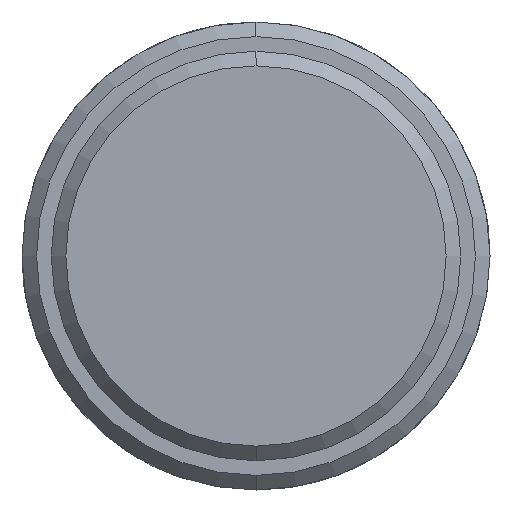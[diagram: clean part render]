
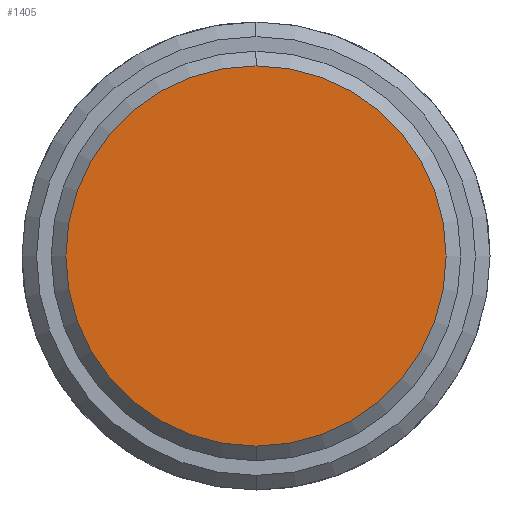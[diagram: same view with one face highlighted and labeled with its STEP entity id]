
A CAD part, left-side view. The second image highlights one B-rep face of the part: STEP entity #1405.
In plain terms, the highlighted planar face has unit normal (-1, 0, 0).
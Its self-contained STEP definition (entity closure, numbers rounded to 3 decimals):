
#1337=CARTESIAN_POINT('Vertex',(-16.,0.,-13.)) ;
#1340=CARTESIAN_POINT('Axis2P3D Location',(-16.,0.,0.)) ;
#1344=CARTESIAN_POINT('Vertex',(-16.,13.,0.)) ;
#1347=CARTESIAN_POINT('Axis2P3D Location',(-16.,0.,0.)) ;
#1351=CARTESIAN_POINT('Vertex',(-16.,0.,13.)) ;
#1373=CARTESIAN_POINT('Axis2P3D Location',(-16.,0.,0.)) ;
#1377=CARTESIAN_POINT('Vertex',(-16.,-13.,0.)) ;
#1380=CARTESIAN_POINT('Axis2P3D Location',(-16.,0.,0.)) ;
#1394=CARTESIAN_POINT('Axis2P3D Location',(-16.,0.,0.)) ;
#1341=DIRECTION('Axis2P3D Direction',(1.,0.,-0.)) ;
#1348=DIRECTION('Axis2P3D Direction',(1.,0.,-0.)) ;
#1374=DIRECTION('Axis2P3D Direction',(1.,0.,-0.)) ;
#1381=DIRECTION('Axis2P3D Direction',(1.,0.,-0.)) ;
#1395=DIRECTION('Axis2P3D Direction',(1.,0.,-0.)) ;
#1396=DIRECTION('Axis2P3D XDirection',(-0.,0.,-1.)) ;
#1342=AXIS2_PLACEMENT_3D('Circle Axis2P3D',#1340,#1341,$) ;
#1349=AXIS2_PLACEMENT_3D('Circle Axis2P3D',#1347,#1348,$) ;
#1375=AXIS2_PLACEMENT_3D('Circle Axis2P3D',#1373,#1374,$) ;
#1382=AXIS2_PLACEMENT_3D('Circle Axis2P3D',#1380,#1381,$) ;
#1397=AXIS2_PLACEMENT_3D('Plane Axis2P3D',#1394,#1395,#1396) ;
#1400=ORIENTED_EDGE('',*,*,#1346,.F.) ;
#1401=ORIENTED_EDGE('',*,*,#1384,.F.) ;
#1402=ORIENTED_EDGE('',*,*,#1379,.F.) ;
#1403=ORIENTED_EDGE('',*,*,#1353,.F.) ;
#1405=ADVANCED_FACE('357-20X66X100',(#1404),#1398,.F.) ;
#1343=CIRCLE('generated circle',#1342,13.) ;
#1350=CIRCLE('generated circle',#1349,13.) ;
#1376=CIRCLE('generated circle',#1375,13.) ;
#1383=CIRCLE('generated circle',#1382,13.) ;
#1346=EDGE_CURVE('',#1338,#1345,#1343,.T.) ;
#1353=EDGE_CURVE('',#1345,#1352,#1350,.T.) ;
#1379=EDGE_CURVE('',#1352,#1378,#1376,.T.) ;
#1384=EDGE_CURVE('',#1378,#1338,#1383,.T.) ;
#1399=EDGE_LOOP('',(#1400,#1401,#1402,#1403)) ;
#1404=FACE_OUTER_BOUND('',#1399,.T.) ;
#1398=PLANE('Plane',#1397) ;
#1338=VERTEX_POINT('',#1337) ;
#1345=VERTEX_POINT('',#1344) ;
#1352=VERTEX_POINT('',#1351) ;
#1378=VERTEX_POINT('',#1377) ;
